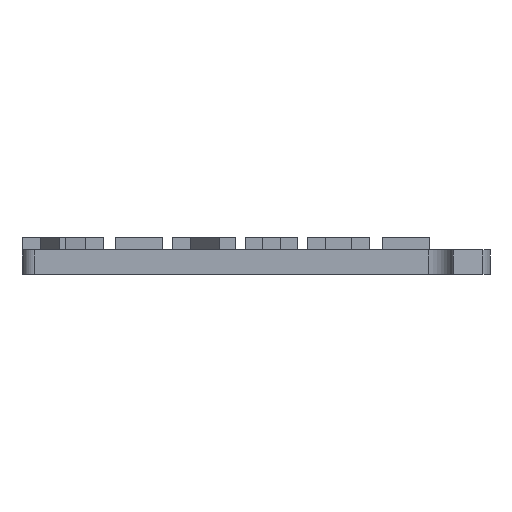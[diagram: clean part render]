
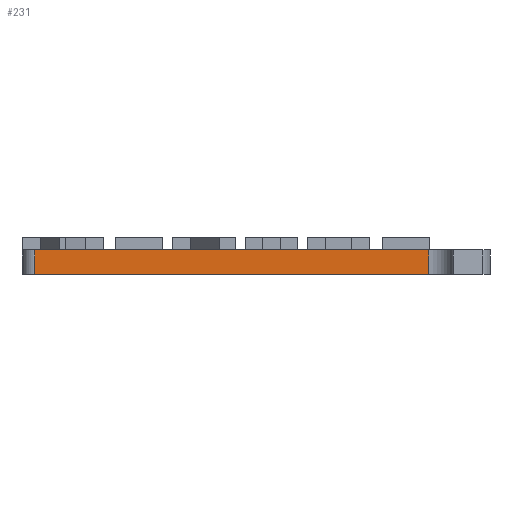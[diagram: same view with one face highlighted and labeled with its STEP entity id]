
A CAD part, front view. The second image highlights one B-rep face of the part: STEP entity #231.
In plain terms, the highlighted planar face has unit normal (0, -1, 0).
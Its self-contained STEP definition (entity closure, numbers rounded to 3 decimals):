
#231=ADVANCED_FACE('',(#488),#489,.T.);
#488=FACE_OUTER_BOUND('',#774,.T.);
#489=PLANE('',#775);
#774=EDGE_LOOP('',(#1452,#1453,#1454,#1455));
#775=AXIS2_PLACEMENT_3D('',#1456,#1457,#1458);
#1452=ORIENTED_EDGE('',*,*,#2054,.T.);
#1453=ORIENTED_EDGE('',*,*,#2093,.T.);
#1454=ORIENTED_EDGE('',*,*,#2082,.F.);
#1455=ORIENTED_EDGE('',*,*,#2094,.T.);
#1456=CARTESIAN_POINT('',(-20.5,-3.0,0.0));
#1457=DIRECTION('',(0.,-1.0,0.0));
#1458=DIRECTION('',(1.0,0.,0.0));
#2054=EDGE_CURVE('',#2556,#2554,#2557,.T.);
#2082=EDGE_CURVE('',#2603,#2605,#2606,.T.);
#2093=EDGE_CURVE('',#2554,#2605,#2625,.T.);
#2094=EDGE_CURVE('',#2603,#2556,#2626,.F.);
#2554=VERTEX_POINT('',#3287);
#2556=VERTEX_POINT('',#3289);
#2557=LINE('',#3290,#3291);
#2603=VERTEX_POINT('',#3361);
#2605=VERTEX_POINT('',#3363);
#2606=LINE('',#3364,#3365);
#2625=LINE('',#3390,#3391);
#2626=LINE('',#3392,#3393);
#3287=CARTESIAN_POINT('',(-5.0,-3.0,0.0));
#3289=CARTESIAN_POINT('',(-37.0,-3.0,0.0));
#3290=CARTESIAN_POINT('',(-20.5,-3.0,0.0));
#3291=VECTOR('',#3767,1.0);
#3361=CARTESIAN_POINT('',(-37.0,-3.0,2.0));
#3363=CARTESIAN_POINT('',(-5.0,-3.0,2.0));
#3364=CARTESIAN_POINT('',(-20.5,-3.0,2.0));
#3365=VECTOR('',#3798,1.0);
#3390=CARTESIAN_POINT('',(-5.0,-3.0,2.0));
#3391=VECTOR('',#3814,1.0);
#3392=CARTESIAN_POINT('',(-37.0,-3.0,0.0));
#3393=VECTOR('',#3815,1.0);
#3767=DIRECTION('',(1.0,0.,0.0));
#3798=DIRECTION('',(1.0,0.,0.0));
#3814=DIRECTION('',(0.0,0.0,1.0));
#3815=DIRECTION('',(0.0,0.0,1.0));
